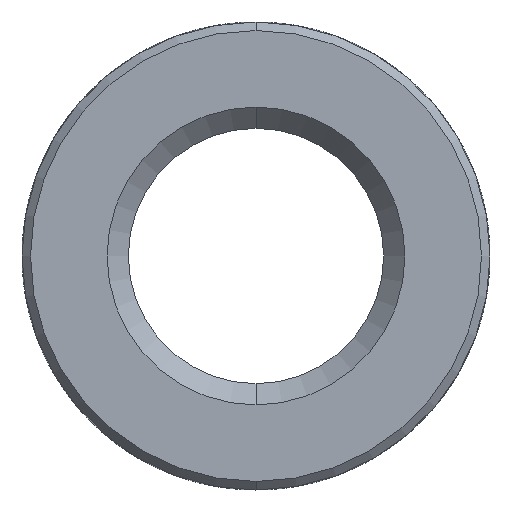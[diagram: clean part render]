
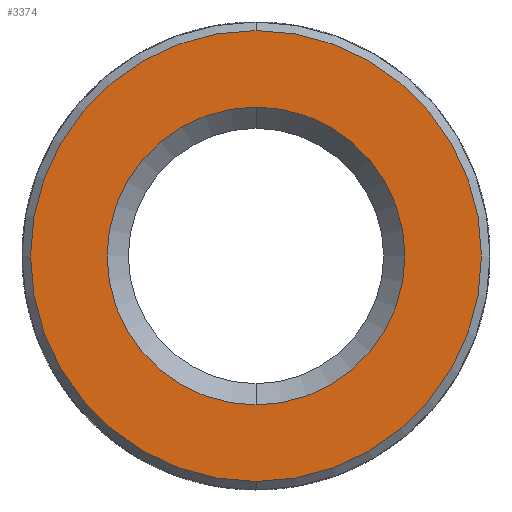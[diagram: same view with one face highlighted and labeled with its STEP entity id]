
A CAD part, front view. The second image highlights one B-rep face of the part: STEP entity #3374.
In plain terms, the highlighted planar face has unit normal (0, -1, 0).
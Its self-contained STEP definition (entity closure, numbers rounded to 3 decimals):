
#13 = CARTESIAN_POINT ( 'NONE',  ( 0., -5.3, -1.75 ) ) ;
#111 = CIRCLE ( 'NONE', #3907, 2.65 ) ;
#342 = DIRECTION ( 'NONE',  ( 0., 0., -1. ) ) ;
#494 = PLANE ( 'NONE',  #3785 ) ;
#672 = EDGE_LOOP ( 'NONE', ( #940, #3466 ) ) ;
#754 = VERTEX_POINT ( 'NONE', #3501 ) ;
#778 = DIRECTION ( 'NONE',  ( 0., 0., -1. ) ) ;
#863 = EDGE_CURVE ( 'NONE', #3012, #1465, #3510, .T. ) ;
#940 = ORIENTED_EDGE ( 'NONE', *, *, #3556, .T. ) ;
#1018 = FACE_OUTER_BOUND ( 'NONE', #672, .T. ) ;
#1040 = AXIS2_PLACEMENT_3D ( 'NONE', #2267, #3499, #3514 ) ;
#1104 = CARTESIAN_POINT ( 'NONE',  ( 0., -5.3, 0. ) ) ;
#1223 = CARTESIAN_POINT ( 'NONE',  ( 0., -5.3, 0. ) ) ;
#1277 = AXIS2_PLACEMENT_3D ( 'NONE', #1104, #3266, #3886 ) ;
#1329 = CARTESIAN_POINT ( 'NONE',  ( 0., -5.3, 0. ) ) ;
#1465 = VERTEX_POINT ( 'NONE', #1649 ) ;
#1649 = CARTESIAN_POINT ( 'NONE',  ( 0., -5.3, 1.75 ) ) ;
#1875 = FACE_BOUND ( 'NONE', #2654, .T. ) ;
#2267 = CARTESIAN_POINT ( 'NONE',  ( 0., -5.3, 0. ) ) ;
#2355 = EDGE_CURVE ( 'NONE', #2396, #754, #111, .T. ) ;
#2361 = CIRCLE ( 'NONE', #3380, 2.65 ) ;
#2396 = VERTEX_POINT ( 'NONE', #3590 ) ;
#2531 = ORIENTED_EDGE ( 'NONE', *, *, #863, .T. ) ;
#2654 = EDGE_LOOP ( 'NONE', ( #2531, #2722 ) ) ;
#2666 = EDGE_CURVE ( 'NONE', #1465, #3012, #3247, .T. ) ;
#2722 = ORIENTED_EDGE ( 'NONE', *, *, #2666, .T. ) ;
#2891 = DIRECTION ( 'NONE',  ( 0., 0., -1. ) ) ;
#2970 = CARTESIAN_POINT ( 'NONE',  ( 0., -5.3, 2.75 ) ) ;
#3012 = VERTEX_POINT ( 'NONE', #13 ) ;
#3116 = DIRECTION ( 'NONE',  ( 0., -1., 0. ) ) ;
#3247 = CIRCLE ( 'NONE', #1040, 1.75 ) ;
#3266 = DIRECTION ( 'NONE',  ( 0., 1., 0. ) ) ;
#3374 = ADVANCED_FACE ( 'NONE', ( #1018, #1875 ), #494, .T. ) ;
#3380 = AXIS2_PLACEMENT_3D ( 'NONE', #1223, #3116, #342 ) ;
#3466 = ORIENTED_EDGE ( 'NONE', *, *, #2355, .T. ) ;
#3499 = DIRECTION ( 'NONE',  ( 0., 1., 0. ) ) ;
#3501 = CARTESIAN_POINT ( 'NONE',  ( 0., -5.3, 2.65 ) ) ;
#3510 = CIRCLE ( 'NONE', #1277, 1.75 ) ;
#3514 = DIRECTION ( 'NONE',  ( 0., 0., -1. ) ) ;
#3556 = EDGE_CURVE ( 'NONE', #754, #2396, #2361, .T. ) ;
#3562 = DIRECTION ( 'NONE',  ( 0., -1., 0. ) ) ;
#3590 = CARTESIAN_POINT ( 'NONE',  ( 0., -5.3, -2.65 ) ) ;
#3785 = AXIS2_PLACEMENT_3D ( 'NONE', #2970, #3562, #778 ) ;
#3820 = DIRECTION ( 'NONE',  ( 0., -1., 0. ) ) ;
#3886 = DIRECTION ( 'NONE',  ( 0., 0., -1. ) ) ;
#3907 = AXIS2_PLACEMENT_3D ( 'NONE', #1329, #3820, #2891 ) ;
